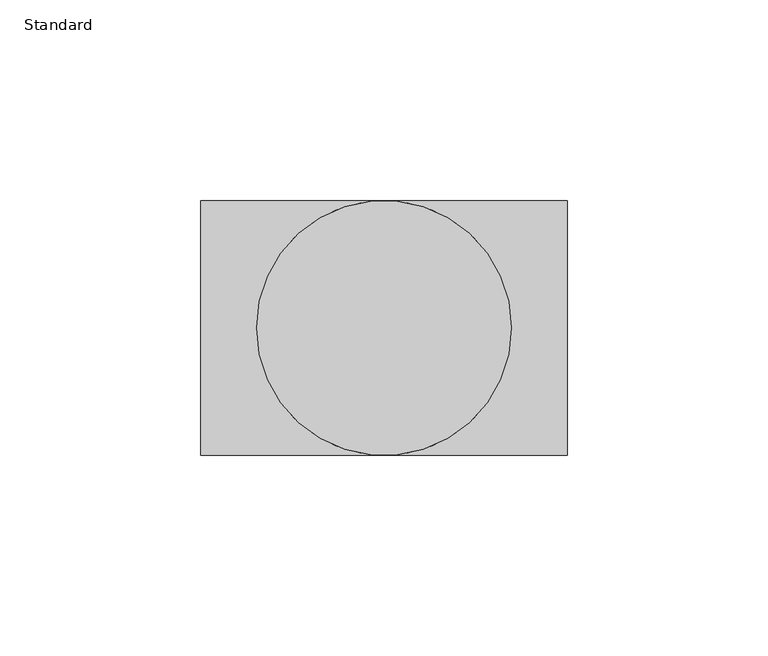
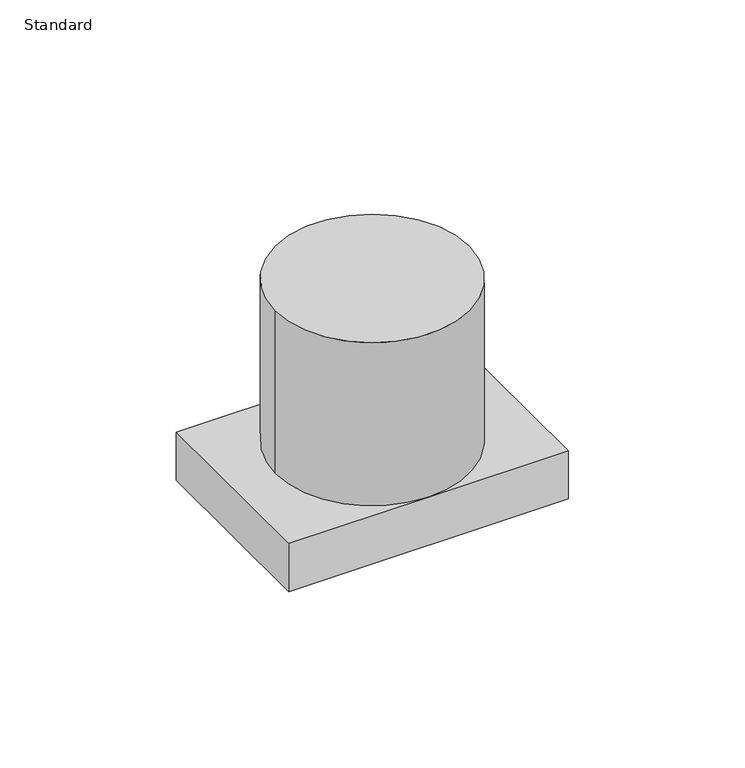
"""IFC4 building model written with IfcOpenShell, lengths in millimetres: proxy geometry, Accessory-Floor_Box-Wiremold-2HUB : Standard."""

from ifc_helpers import new_model, si_unit, frame, origin, place, context, project, spatial, circle_curve, source, transform, mapped, element, save
from ifc_brep_helpers import plane_surface, cylinder_surface, advanced_brep


def standard_edd69cb0(model_context):
    return source(origin(), model_context, "Body", "AdvancedBrep", [
        advanced_brep(
        [(-45.72, 31.75, 16.6116), (-45.72, -31.75, 16.6116), (0.0, -31.75, 16.6116), (-31.75, 0.0, 16.6116), (0.0, 31.75, 16.6116), (45.72, -31.75, 16.6116), (45.72, 31.75, 16.6116), (31.75, 0.0, 16.6116), (45.72, 31.75, 0.0), (45.72, -31.75, 0.0), (-45.72, -31.75, 0.0), (-45.72, 31.75, 0.0), (-31.75, 0.0, 73.025), (31.75, 0.0, 73.025)],
        [
            (0, 1),
            (1, 2),
            (2, 3, circle_curve(frame((0.0, 0.0, 16.6116), z_axis=(0.0, 0.0, -1.0), x_axis=(1.0, 0.0, 0.0)), 31.75)),
            (3, 4, circle_curve(frame((0.0, 0.0, 16.6116), z_axis=(0.0, 0.0, -1.0), x_axis=(1.0, 0.0, 0.0)), 31.75)),
            (4, 0),
            (5, 6),
            (6, 4),
            (4, 7, circle_curve(frame((0.0, 0.0, 16.6116), z_axis=(0.0, 0.0, -1.0), x_axis=(1.0, 0.0, 0.0)), 31.75)),
            (7, 2, circle_curve(frame((0.0, 0.0, 16.6116), z_axis=(0.0, 0.0, -1.0), x_axis=(1.0, 0.0, 0.0)), 31.75)),
            (2, 5),
            (8, 9),
            (9, 10),
            (10, 11),
            (11, 8),
            (11, 0),
            (6, 8),
            (10, 1),
            (9, 5),
            (12, 13, circle_curve(frame((0.0, 0.0, 73.025), z_axis=(0.0, 0.0, 1.0), x_axis=(1.0, 0.0, 0.0)), 31.75)),
            (13, 12, circle_curve(frame((0.0, 0.0, 73.025), z_axis=(0.0, 0.0, 1.0), x_axis=(1.0, 0.0, 0.0)), 31.75)),
            (12, 3),
            (7, 13),
        ],
        [
            plane_surface(frame((-45.72, 31.75, 16.6116), z_axis=(0.0, 0.0, 1.0), x_axis=(-1.0, 0.0, 0.0))),
            plane_surface(frame((-45.72, 31.75, 0.0), z_axis=(0.0, 0.0, -1.0), x_axis=(1.0, 0.0, 0.0))),
            plane_surface(frame((45.72, 31.75, 16.6116), z_axis=(0.0, 1.0, 0.0), x_axis=(0.0, 0.0, -1.0))),
            plane_surface(frame((-45.72, 31.75, 16.6116), z_axis=(-1.0, 0.0, 0.0), x_axis=(0.0, 0.0, -1.0))),
            plane_surface(frame((-45.72, -31.75, 16.6116), z_axis=(0.0, -1.0, 0.0), x_axis=(0.0, 0.0, -1.0))),
            plane_surface(frame((45.72, -31.75, 16.6116), z_axis=(1.0, 0.0, 0.0), x_axis=(0.0, 0.0, -1.0))),
            plane_surface(frame((31.75, 0.0, 73.025), z_axis=(0.0, 0.0, 1.0), x_axis=(0.0, 1.0, 0.0))),
            cylinder_surface(frame((0.0, 0.0, 16.6116), z_axis=(0.0, 0.0, 1.0), x_axis=(1.0, 0.0, 0.0)), 31.75),
        ],
        [
            (0, [[1, 2, 3, 4, 5]]),
            (0, [[6, 7, 8, 9, 10]]),
            (1, [[11, 12, 13, 14]]),
            (2, [[-14, 15, -5, -7, 16]]),
            (3, [[-1, -15, -13, 17]]),
            (4, [[-12, 18, -10, -2, -17]]),
            (5, [[-6, -18, -11, -16]]),
            (6, [[19, 20]]),
            (7, [[-19, 21, -3, -9, 22]]),
            (7, [[-20, -22, -8, -4, -21]]),
        ],
    ),
    ])


if __name__ == "__main__":
    model = new_model("IFC4")
    model_context = context("Model", 3, world=origin())
    ifc_project = project(units=[si_unit("LENGTHUNIT", "METRE", prefix="MILLI")], contexts=[model_context])
    site = spatial("IfcSite", under=ifc_project)
    building = spatial("IfcBuilding", under=site)
    placement = place(None, origin())
    standard_shape = standard_edd69cb0(model_context)
    element("IfcBuildingElementProxy", 1, Name="Accessory-Floor_Box-Wiremold-2HUB : Standard", ObjectType="Accessory-Floor_Box-Wiremold-2HUB : Standard", at=placement, inside=building, context=model_context, shape_type="MappedRepresentation", body=[
        mapped(standard_shape, transform((0.0, 0.0, 0.0), x_axis=(1.0, 0.0, 0.0), y_axis=(0.0, 1.0, 0.0), z_axis=(0.0, 0.0, 1.0))),
    ])
    save(model, "model.ifc")
